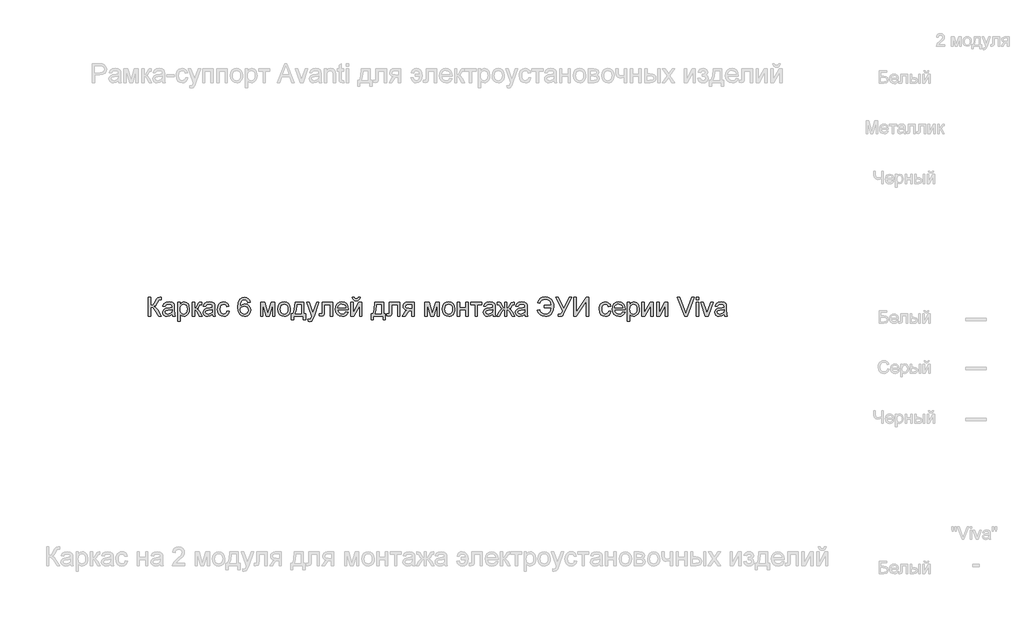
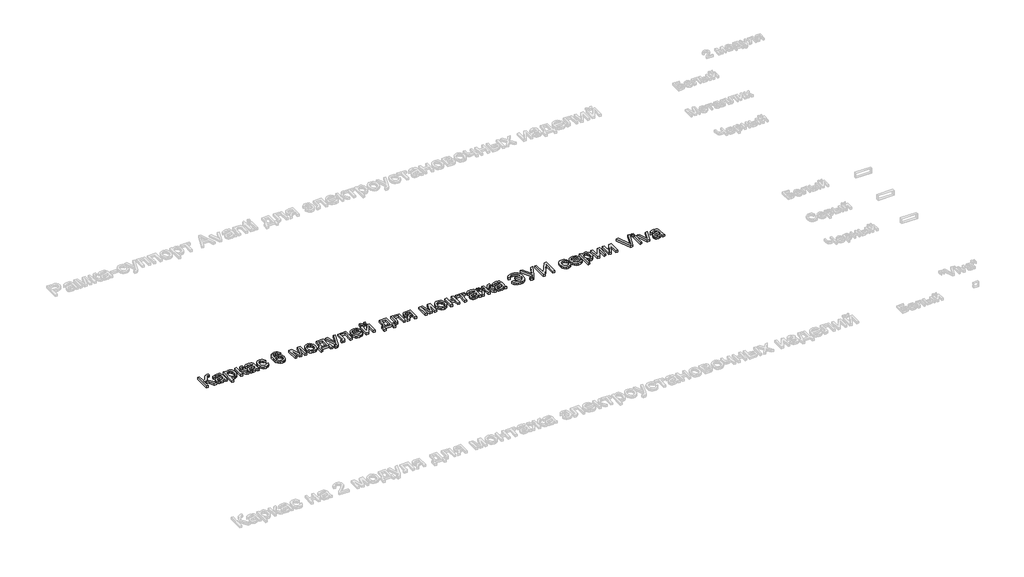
# One storey, part 22 of 48: 1 proxy.
"""IFC4 building model written with IfcOpenShell, lengths in millimetres."""

from ifc_helpers import new_model, si_unit, origin, origin_with_axes, place, context, project, spatial, polyline, outline, extrude, element, save

model = new_model("IFC4")

# Units and contexts
model_context = context("Model", 3, world=origin())
ifc_project = project(units=[si_unit("LENGTHUNIT", "METRE", prefix="MILLI")], contexts=[model_context])

# Site, building, storey
site = spatial("IfcSite", under=ifc_project)
building = spatial("IfcBuilding", under=site)
storey = spatial("IfcBuildingStorey", under=building, Name="Этаж 01", Elevation=0.0)

# Proxy
placement = place(None, origin())
element("IfcBuildingElementProxy", 1, Name="150 мм Arial", ObjectType="150 мм Arial", at=placement, inside=storey, context=model_context, shape_type="SweptSolid", body=[
    extrude(outline(polyline([(70684.1471502, -3434.4299849), (70702.9827083, -3434.4299849), (70702.9827083, -3500.3544384), (70715.734418, -3499.1082382), (70724.0439526, -3495.3696374), (70738.7408383, -3470.1513266), (70749.1335046, -3449.0900824), (70760.9057285, -3438.6606279), (70777.7363298, -3434.4299849), (70790.0971648, -3434.6507141), (70790.0971648, -3453.4862723), (70785.9400983, -3453.3759077), (70781.7830317, -3453.2655431), (70767.0677519, -3457.7904916), (70755.8841392, -3477.1778727), (70742.5484169, -3500.7958968), (70729.5437884, -3508.5949951), (70744.0843243, -3517.1114633), (70758.422525, -3534.8617696), (70790.0971648, -3585.1144501), (70768.2449743, -3585.1144501), (70741.463165, -3542.6608679), (70722.6092128, -3520.4959777), (70713.9042051, -3515.9848247), (70702.9827083, -3514.4811071), (70702.9827083, -3585.1144501), (70684.1471502, -3585.1144501), (70684.1471502, -3434.4299849)])), origin_with_axes(), (0.0, 0.0, 1.0), 20.0),
    extrude(outline(polyline([(70874.8571765, -3570.9877815), (70856.5918354, -3583.7532868), (70836.413508, -3587.4688949), (70820.6727571, -3585.2340118), (70809.0614817, -3578.5293624), (70801.9015783, -3568.3482282), (70799.5149439, -3555.6838905), (70803.1201874, -3540.7846697), (70812.5931488, -3529.9689391), (70825.7817183, -3523.7885215), (70842.0788907, -3520.9558302), (70874.7468119, -3514.4811071), (70874.8571765, -3510.2872523), (70873.5603925, -3501.8811487), (70869.6700404, -3496.3813129), (70860.9696312, -3492.2978228), (70848.8479194, -3490.9366594), (70829.7916321, -3494.560297), (70820.7049468, -3507.4177728), (70801.8693886, -3505.063328), (70810.0179748, -3486.6692282), (70826.4255118, -3475.8902858), (70851.2759406, -3472.1011012), (70874.1030184, -3475.4488274), (70886.9972823, -3483.854931), (70892.7730297, -3496.6388303), (70893.6927346, -3513.1199437), (70893.6927346, -3536.5540268), (70894.6492278, -3569.2771302), (70898.4016242, -3585.1144501), (70879.566066, -3585.1144501), (70874.8571765, -3570.9877815)]), holes=[polyline([(70874.8571765, -3533.3166652), (70844.4701237, -3539.0924125), (70828.2649218, -3542.1458331), (70820.925676, -3547.11224), (70818.350502, -3554.3595153), (70823.9607025, -3564.5498466), (70840.4234217, -3568.6333367), (70859.4797091, -3564.1267823), (70871.7669677, -3553.2190812), (70874.7468119, -3538.6509541), (70874.8571765, -3533.3166652)])]), origin_with_axes(), (0.0, 0.0, 1.0), 20.0),
    extrude(outline(polyline([(70919.5916271, -3627.494456), (70919.5916271, -3474.455546), (70938.4271853, -3474.455546), (70938.4271853, -3492.9232221), (70951.4502079, -3477.3066314), (70969.0349673, -3472.1011012), (70981.7728813, -3473.9221171), (70992.9105087, -3479.3851647), (71001.9787999, -3488.1591503), (71008.5087053, -3499.9129801), (71013.7694179, -3528.9388695), (71012.2840943, -3545.0475023), (71007.8281236, -3559.454681), (71000.5440601, -3571.4292399), (70990.5744581, -3580.2400137), (70978.9631826, -3585.6616746), (70966.7540989, -3587.4688949), (70950.364956, -3582.6312467), (70938.4271853, -3570.3991703), (70938.4271853, -3627.494456), (70919.5916271, -3627.494456)]), holes=[polyline([(70938.4271853, -3530.6679148), (70940.4643318, -3547.5536984), (70946.5757714, -3559.3627105), (70955.5934789, -3566.3156802), (70966.3494287, -3568.6333367), (70977.2801225, -3566.2329067), (70986.5277561, -3559.0316167), (70992.8323338, -3546.7903433), (70994.9338597, -3529.2699633), (70992.8829176, -3512.4761502), (70986.7300912, -3500.5015912), (70977.7261794, -3493.3278923), (70967.1219809, -3490.9366594), (70956.4763956, -3493.4796437), (70947.1275944, -3501.1085965), (70940.6022876, -3513.5843947), (70938.4271853, -3530.6679148)])]), origin_with_axes(), (0.0, 0.0, 1.0), 20.0),
    extrude(outline(polyline([(71034.9594208, -3474.455546), (71053.7949789, -3474.455546), (71053.7949789, -3521.5444414), (71066.4133314, -3518.159927), (71076.7508154, -3498.4414521), (71085.34086, -3481.4269098), (71092.9192291, -3475.8902858), (71106.6964099, -3474.455546), (71110.3016534, -3474.455546), (71110.3016534, -3493.4014687), (71105.2248819, -3493.2911041), (71096.027832, -3495.2776669), (71089.5531089, -3507.6752901), (71081.9563457, -3521.0845889), (71071.3061619, -3527.6512825), (71083.1887504, -3534.9813312), (71094.8506096, -3550.423178), (71115.0105429, -3585.1144501), (71093.5998108, -3585.1144501), (71073.8445477, -3551.158942), (71063.9117338, -3536.7931501), (71053.7949789, -3533.3166652), (71053.7949789, -3585.1144501), (71034.9594208, -3585.1144501), (71034.9594208, -3474.455546)])), origin_with_axes(), (0.0, 0.0, 1.0), 20.0),
    extrude(outline(polyline([(71197.4161099, -3570.9877815), (71179.1507688, -3583.7532868), (71158.9724414, -3587.4688949), (71143.2316905, -3585.2340118), (71131.620415, -3578.5293624), (71124.4605117, -3568.3482282), (71122.0738772, -3555.6838905), (71125.6791208, -3540.7846697), (71135.1520822, -3529.9689391), (71148.3406517, -3523.7885215), (71164.6378241, -3520.9558302), (71197.3057453, -3514.4811071), (71197.4161099, -3510.2872523), (71196.1193258, -3501.8811487), (71192.2289737, -3496.3813129), (71183.5285645, -3492.2978228), (71171.4068528, -3490.9366594), (71152.3505655, -3494.560297), (71143.2638802, -3507.4177728), (71124.428322, -3505.063328), (71132.5769082, -3486.6692282), (71148.9844452, -3475.8902858), (71173.834874, -3472.1011012), (71196.6619518, -3475.4488274), (71209.5562157, -3483.854931), (71215.331963, -3496.6388303), (71216.251668, -3513.1199437), (71216.251668, -3536.5540268), (71217.2081612, -3569.2771302), (71220.9605576, -3585.1144501), (71202.1249994, -3585.1144501), (71197.4161099, -3570.9877815)]), holes=[polyline([(71197.4161099, -3533.3166652), (71167.0290571, -3539.0924125), (71150.8238552, -3542.1458331), (71143.4846094, -3547.11224), (71140.9094354, -3554.3595153), (71146.5196358, -3564.5498466), (71162.9823551, -3568.6333367), (71182.0386425, -3564.1267823), (71194.3259011, -3553.2190812), (71197.3057453, -3538.6509541), (71197.4161099, -3533.3166652)])]), origin_with_axes(), (0.0, 0.0, 1.0), 20.0),
    extrude(outline(polyline([(71312.7839035, -3545.0888891), (71331.6194617, -3547.4433338), (71326.3679462, -3564.1957602), (71316.4995117, -3576.8554993), (71302.9430602, -3584.815546), (71286.6274937, -3587.4688949), (71266.5917205, -3583.7670823), (71250.9245461, -3572.6616446), (71240.8123897, -3554.6400254), (71237.4416709, -3530.1896683), (71238.8810092, -3513.4280448), (71243.1990242, -3498.9013046), (71250.4646936, -3487.1704674), (71260.7469953, -3478.7965535), (71273.0480495, -3473.7749643), (71286.3699763, -3472.1011012), (71302.2854711, -3474.4003637), (71315.0095896, -3481.2981511), (71324.1376616, -3492.4265814), (71329.2650169, -3507.4177728), (71310.4294588, -3509.7722175), (71301.6922614, -3495.663943), (71286.5171291, -3490.9366594), (71274.3448336, -3493.263513), (71264.6833327, -3500.2440738), (71258.378755, -3512.255421), (71256.2772291, -3529.6746335), (71258.3327697, -3547.3283707), (71264.4993917, -3559.3811046), (71273.9861486, -3566.3202787), (71286.0020943, -3568.6333367), (71295.7555657, -3567.1893999), (71303.7524006, -3562.8575894), (71309.5695346, -3555.5275407), (71312.7839035, -3545.0888891)])), origin_with_axes(), (0.0, 0.0, 1.0), 20.0),
    extrude(outline(polyline([(71498.7850403, -3474.455546), (71479.9494822, -3476.8099908), (71472.8125715, -3461.1014296), (71464.2685121, -3455.2245147), (71453.9402251, -3453.2655431), (71436.9440769, -3457.8272798), (71424.0866012, -3474.9521867), (71420.1824535, -3488.9822863), (71418.7339182, -3508.5214187), (71435.3437902, -3493.4934392), (71455.9267879, -3488.5822146), (71473.3276062, -3491.9391378), (71487.9325215, -3502.0099074), (71497.8377442, -3517.3965719), (71501.1394851, -3536.7011796), (71499.5851836, -3550.1886532), (71494.9222794, -3562.6920425), (71487.5370483, -3573.296241), (71477.8157666, -3581.0861423), (71466.1998926, -3585.8732067), (71453.1308847, -3587.4688949), (71431.7615393, -3583.238252), (71414.7423985, -3570.5463231), (71403.6093696, -3548.1423096), (71399.89836, -3514.7754127), (71404.0186384, -3477.2606462), (71416.3794734, -3451.6100741), (71433.2560599, -3438.7250072), (71455.1174475, -3434.4299849), (71471.6445461, -3437.0879323), (71484.8791009, -3445.0617746), (71494.1497272, -3457.7261123), (71498.7850403, -3474.455546)]), holes=[polyline([(71418.7339182, -3536.406874), (71423.0933198, -3552.7224405), (71434.6816027, -3564.5682407), (71451.6593567, -3568.6333367), (71464.0891696, -3566.5272123), (71473.8610351, -3560.2088391), (71480.193204, -3550.2760252), (71482.3039269, -3537.326579), (71480.2207951, -3524.896766), (71473.9713997, -3515.4192061), (71464.0339873, -3509.4181311), (71450.8868045, -3507.4177728), (71438.4753857, -3509.4181311), (71428.0965149, -3515.4192061), (71421.0745674, -3524.6668398), (71418.7339182, -3536.406874)])]), origin_with_axes(), (0.0, 0.0, 1.0), 20.0),
    extrude(outline(polyline([(71581.1906072, -3474.455546), (71613.601011, -3474.455546), (71638.5801985, -3563.0415304), (71665.5091605, -3474.455546), (71696.5584009, -3474.455546), (71696.5584009, -3585.1144501), (71677.7228428, -3585.1144501), (71677.7228428, -3496.0134309), (71650.6467279, -3585.1144501), (71625.9250578, -3585.1144501), (71600.0261654, -3491.7459998), (71600.0261654, -3585.1144501), (71581.1906072, -3585.1144501), (71581.1906072, -3474.455546)])), origin_with_axes(), (0.0, 0.0, 1.0), 20.0),
    extrude(outline(polyline([(71720.1028486, -3529.7849981), (71724.1771417, -3503.1043564), (71736.400021, -3484.3515717), (71751.5015769, -3475.1637188), (71769.582977, -3472.1011012), (71789.3704298, -3475.8305049), (71805.17556, -3487.0187161), (71815.5360367, -3504.782818), (71818.9895289, -3528.2398937), (71817.4628186, -3547.2685899), (71812.8826878, -3561.7539434), (71805.3824936, -3572.6018638), (71795.0955933, -3580.7182603), (71782.8773126, -3585.7812362), (71769.582977, -3587.4688949), (71749.5564008, -3583.7532868), (71733.7696647, -3572.6064623), (71723.5195526, -3554.4698799), (71720.1028486, -3529.7849981)]), holes=[polyline([(71738.9384068, -3529.7482099), (71741.1181076, -3546.7949418), (71747.65721, -3558.9396462), (71757.4980534, -3566.2099141), (71769.582977, -3568.6333367), (71781.6127182, -3566.1961185), (71791.4351675, -3558.8844639), (71797.9742699, -3546.5788111), (71800.1539708, -3529.1595987), (71797.9604744, -3512.6095074), (71791.3799852, -3500.6303499), (71781.5437403, -3493.360082), (71769.582977, -3490.9366594), (71757.4980534, -3493.350885), (71747.65721, -3500.5935617), (71741.1181076, -3512.710675), (71738.9384068, -3529.7482099)])]), origin_with_axes(), (0.0, 0.0, 1.0), 20.0),
    extrude(outline(polyline([(71856.6606452, -3474.455546), (71927.2939883, -3474.455546), (71927.2939883, -3566.278892), (71941.4206569, -3566.278892), (71941.4206569, -3615.7222321), (71922.5850988, -3615.7222321), (71922.5850988, -3585.1144501), (71844.8884214, -3585.1144501), (71844.8884214, -3615.7222321), (71826.0528632, -3615.7222321), (71826.0528632, -3566.278892), (71837.8250871, -3566.278892), (71846.382942, -3550.8140526), (71852.37482, -3530.3552152), (71856.6606452, -3474.455546)]), holes=[polyline([(71873.1417586, -3493.2911041), (71868.7271747, -3536.2045389), (71859.01509, -3566.278892), (71908.4584301, -3566.278892), (71908.4584301, -3493.2911041), (71873.1417586, -3493.2911041)])]), origin_with_axes(), (0.0, 0.0, 1.0), 20.0),
    extrude(outline(polyline([(71962.6106598, -3627.494456), (71960.2562151, -3609.3578736), (71969.8211469, -3611.0133426), (71978.7606794, -3608.9348093), (71984.2421211, -3603.1406679), (71989.3924691, -3589.2715167), (71990.8639971, -3584.7097799), (71950.838436, -3474.455546), (71970.7040637, -3474.455546), (71991.9308548, -3535.8918392), (71999.3252829, -3560.4663565), (72006.7197111, -3538.7613187), (72028.5351134, -3474.455546), (72048.2535883, -3474.455546), (72009.7363434, -3587.7632005), (71999.7299531, -3612.3377178), (71988.8038579, -3625.6182578), (71974.1253663, -3629.8489007), (71962.6106598, -3627.494456)])), origin_with_axes(), (0.0, 0.0, 1.0), 20.0),
    extrude(outline(polyline([(72073.269564, -3474.455546), (72158.0295757, -3474.455546), (72158.0295757, -3585.0040855), (72139.1940175, -3585.0040855), (72139.1940175, -3493.2911041), (72092.1051221, -3493.2911041), (72092.1051221, -3546.0821704), (72090.8359292, -3570.4359585), (72083.8645654, -3580.7182603), (72067.3834521, -3585.1144501), (72052.0795611, -3584.1579569), (72052.0795611, -3566.278892), (72060.5040587, -3566.278892), (72069.0205269, -3565.1200637), (72072.4234354, -3561.4412437), (72073.269564, -3545.0153127), (72073.269564, -3474.455546)])), origin_with_axes(), (0.0, 0.0, 1.0), 20.0),
    extrude(outline(polyline([(72263.7588611, -3552.1522234), (72282.2265372, -3554.5066681), (72275.5724717, -3568.4218046), (72264.9544776, -3578.823668), (72250.6116783, -3585.3075882), (72232.7831971, -3587.4688949), (72210.6826862, -3583.7394912), (72193.677341, -3572.55128), (72182.8340192, -3554.6308283), (72179.2195786, -3530.704703), (72182.8708074, -3505.9738359), (72193.8244938, -3487.4785686), (72210.5999128, -3475.9454681), (72231.7163393, -3472.1011012), (72252.1751768, -3475.936271), (72268.5229329, -3487.4417804), (72279.2420946, -3505.9002595), (72282.8151484, -3530.5943384), (72282.7047838, -3535.67111), (72198.0551367, -3535.67111), (72201.3154909, -3549.7701874), (72208.8892615, -3560.1352627), (72219.8199553, -3566.5088182), (72233.1510791, -3568.6333367), (72251.6187552, -3564.6969994), (72263.7588611, -3552.1522234)]), holes=[polyline([(72198.0551367, -3516.8355518), (72263.9795903, -3516.8355518), (72261.4320075, -3506.8843439), (72256.4380094, -3499.7658273), (72245.4567318, -3493.1439513), (72231.6427629, -3490.9366594), (72218.9462355, -3492.6978944), (72208.4478031, -3497.9815996), (72201.149944, -3506.2175577), (72198.0551367, -3516.8355518)])]), origin_with_axes(), (0.0, 0.0, 1.0), 20.0),
    extrude(outline(polyline([(72301.6507066, -3474.455546), (72320.4862647, -3474.455546), (72320.4862647, -3558.8476757), (72366.7658197, -3474.455546), (72391.1196078, -3474.455546), (72391.1196078, -3585.1144501), (72372.2840497, -3585.1144501), (72372.2840497, -3501.2373552), (72326.2988003, -3585.1144501), (72301.6507066, -3585.1144501), (72301.6507066, -3474.455546)])), origin_with_axes(), (0.0, 0.0, 1.0), 20.0),
    extrude(outline(polyline([(72362.8662706, -3434.4299849), (72376.9929392, -3434.4299849), (72373.9533142, -3446.4919158), (72367.8510716, -3455.3808645), (72358.9621229, -3460.8577077), (72347.5623796, -3462.6833221), (72335.1923475, -3460.8715033), (72325.5998245, -3455.4360468), (72319.0423279, -3446.5608937), (72315.7773752, -3434.4299849), (72329.9040438, -3434.4299849), (72335.2015445, -3445.0433805), (72345.8701224, -3448.5566535), (72357.5687699, -3445.1537451), (72362.8662706, -3434.4299849)])), origin_with_axes(), (0.0, 0.0, 1.0), 20.0),
    extrude(outline(polyline([(72494.7151777, -3474.455546), (72565.3485207, -3474.455546), (72565.3485207, -3566.278892), (72579.4751893, -3566.278892), (72579.4751893, -3615.7222321), (72560.6396312, -3615.7222321), (72560.6396312, -3585.1144501), (72482.9429538, -3585.1144501), (72482.9429538, -3615.7222321), (72464.1073957, -3615.7222321), (72464.1073957, -3566.278892), (72475.8796195, -3566.278892), (72484.4374744, -3550.8140526), (72490.4293524, -3530.3552152), (72494.7151777, -3474.455546)]), holes=[polyline([(72511.196291, -3493.2911041), (72506.7817071, -3536.2045389), (72497.0696224, -3566.278892), (72546.5129626, -3566.278892), (72546.5129626, -3493.2911041), (72511.196291, -3493.2911041)])]), origin_with_axes(), (0.0, 0.0, 1.0), 20.0),
    extrude(outline(polyline([(72610.0829713, -3474.455546), (72694.842983, -3474.455546), (72694.842983, -3585.0040855), (72676.0074249, -3585.0040855), (72676.0074249, -3493.2911041), (72628.9185295, -3493.2911041), (72628.9185295, -3546.0821704), (72627.6493366, -3570.4359585), (72620.6779728, -3580.7182603), (72604.1968594, -3585.1144501), (72588.8929684, -3584.1579569), (72588.8929684, -3566.278892), (72597.3174661, -3566.278892), (72605.8339343, -3565.1200637), (72609.2368428, -3561.4412437), (72610.0829713, -3545.0153127), (72610.0829713, -3474.455546)])), origin_with_axes(), (0.0, 0.0, 1.0), 20.0),
    extrude(outline(polyline([(72807.8563319, -3474.455546), (72807.8563319, -3585.1144501), (72789.0207738, -3585.1144501), (72789.0207738, -3542.7344443), (72778.7568661, -3542.7344443), (72764.7773503, -3545.1256773), (72751.6439631, -3561.2021204), (72736.6343777, -3585.1144501), (72714.8557636, -3585.1144501), (72733.7648981, -3554.8745501), (72742.1158194, -3544.0220313), (72749.8045531, -3539.2027771), (72736.9286833, -3535.2572427), (72727.8787862, -3527.7616471), (72722.5261032, -3517.792045), (72720.7418755, -3506.4244914), (72723.1790937, -3493.5302274), (72730.4907484, -3483.3215021), (72742.4193221, -3476.672035), (72758.7072974, -3474.455546), (72807.8563319, -3474.455546)]), holes=[polyline([(72789.0207738, -3493.2911041), (72764.1887391, -3493.2911041), (72751.3634531, -3494.3809545), (72744.0839881, -3497.6505058), (72739.5774336, -3507.8592311), (72741.2375011, -3515.0375286), (72746.2177037, -3520.0177311), (72769.7437572, -3523.8988861), (72789.0207738, -3523.8988861), (72789.0207738, -3493.2911041)])]), origin_with_axes(), (0.0, 0.0, 1.0), 20.0),
    extrude(outline(polyline([(72894.9707884, -3474.455546), (72927.3811922, -3474.455546), (72952.3603797, -3563.0415304), (72979.2893417, -3474.455546), (73010.3385821, -3474.455546), (73010.3385821, -3585.1144501), (72991.5030239, -3585.1144501), (72991.5030239, -3496.0134309), (72964.4269091, -3585.1144501), (72939.705239, -3585.1144501), (72913.8063466, -3491.7459998), (72913.8063466, -3585.1144501), (72894.9707884, -3585.1144501), (72894.9707884, -3474.455546)])), origin_with_axes(), (0.0, 0.0, 1.0), 20.0),
    extrude(outline(polyline([(73033.8830298, -3529.7849981), (73037.9573229, -3503.1043564), (73050.1802022, -3484.3515717), (73065.2817581, -3475.1637188), (73083.3631581, -3472.1011012), (73103.150611, -3475.8305049), (73118.9557412, -3487.0187161), (73129.3162179, -3504.782818), (73132.7697101, -3528.2398937), (73131.2429998, -3547.2685899), (73126.662869, -3561.7539434), (73119.1626748, -3572.6018638), (73108.8757745, -3580.7182603), (73096.6574937, -3585.7812362), (73083.3631581, -3587.4688949), (73063.336582, -3583.7532868), (73047.5498459, -3572.6064623), (73037.2997338, -3554.4698799), (73033.8830298, -3529.7849981)]), holes=[polyline([(73052.7185879, -3529.7482099), (73054.8982888, -3546.7949418), (73061.4373912, -3558.9396462), (73071.2782346, -3566.2099141), (73083.3631581, -3568.6333367), (73095.3928994, -3566.1961185), (73105.2153486, -3558.8844639), (73111.7544511, -3546.5788111), (73113.9341519, -3529.1595987), (73111.7406555, -3512.6095074), (73105.1601663, -3500.6303499), (73095.3239215, -3493.360082), (73083.3631581, -3490.9366594), (73071.2782346, -3493.350885), (73061.4373912, -3500.5935617), (73054.8982888, -3512.710675), (73052.7185879, -3529.7482099)])]), origin_with_axes(), (0.0, 0.0, 1.0), 20.0),
    extrude(outline(polyline([(73153.959713, -3474.455546), (73172.7952712, -3474.455546), (73172.7952712, -3516.8355518), (73222.2386113, -3516.8355518), (73222.2386113, -3474.455546), (73241.0741695, -3474.455546), (73241.0741695, -3585.1144501), (73222.2386113, -3585.1144501), (73222.2386113, -3535.67111), (73172.7952712, -3535.67111), (73172.7952712, -3585.1144501), (73153.959713, -3585.1144501), (73153.959713, -3474.455546)])), origin_with_axes(), (0.0, 0.0, 1.0), 20.0),
    extrude(outline(polyline([(73259.9097276, -3474.455546), (73349.3786288, -3474.455546), (73349.3786288, -3493.2911041), (73314.0619573, -3493.2911041), (73314.0619573, -3585.1144501), (73295.2263992, -3585.1144501), (73295.2263992, -3493.2911041), (73259.9097276, -3493.2911041), (73259.9097276, -3474.455546)])), origin_with_axes(), (0.0, 0.0, 1.0), 20.0),
    extrude(outline(polyline([(73436.4930853, -3570.9877815), (73418.2277442, -3583.7532868), (73398.0494168, -3587.4688949), (73382.3086659, -3585.2340118), (73370.6973905, -3578.5293624), (73363.5374871, -3568.3482282), (73361.1508527, -3555.6838905), (73364.7560962, -3540.7846697), (73374.2290576, -3529.9689391), (73387.4176271, -3523.7885215), (73403.7147995, -3520.9558302), (73436.3827207, -3514.4811071), (73436.4930853, -3510.2872523), (73435.1963013, -3501.8811487), (73431.3059492, -3496.3813129), (73422.60554, -3492.2978228), (73410.4838282, -3490.9366594), (73391.4275409, -3494.560297), (73382.3408556, -3507.4177728), (73363.5052975, -3505.063328), (73371.6538837, -3486.6692282), (73388.0614206, -3475.8902858), (73412.9118494, -3472.1011012), (73435.7389272, -3475.4488274), (73448.6331911, -3483.854931), (73454.4089385, -3496.6388303), (73455.3286435, -3513.1199437), (73455.3286435, -3536.5540268), (73456.2851366, -3569.2771302), (73460.037533, -3585.1144501), (73441.2019748, -3585.1144501), (73436.4930853, -3570.9877815)]), holes=[polyline([(73436.4930853, -3533.3166652), (73406.1060325, -3539.0924125), (73389.9008306, -3542.1458331), (73382.5615848, -3547.11224), (73379.9864108, -3554.3595153), (73385.5966113, -3564.5498466), (73402.0593306, -3568.6333367), (73421.1156179, -3564.1267823), (73433.4028765, -3553.2190812), (73436.3827207, -3538.6509541), (73436.4930853, -3533.3166652)])]), origin_with_axes(), (0.0, 0.0, 1.0), 20.0),
    extrude(outline(polyline([(73549.5064342, -3474.455546), (73549.5064342, -3521.5444414), (73560.4877118, -3517.6632863), (73570.8803781, -3497.5217471), (73583.2780014, -3478.2079423), (73600.8995489, -3474.455546), (73608.3675535, -3474.455546), (73608.3675535, -3493.4014687), (73603.1804173, -3493.2911041), (73593.4683326, -3495.2408787), (73586.7360921, -3507.454561), (73578.9185997, -3520.8454656), (73567.7533812, -3527.6512825), (73580.068231, -3534.9813312), (73592.0703811, -3550.423178), (73613.076443, -3585.1144501), (73591.4817699, -3585.1144501), (73570.8068017, -3550.9014246), (73560.2669826, -3536.6827855), (73549.5064342, -3533.3166652), (73549.5064342, -3585.1144501), (73530.6708761, -3585.1144501), (73530.6708761, -3533.3166652), (73519.9471159, -3536.6092091), (73509.3337203, -3550.8278482), (73488.6587522, -3585.1144501), (73467.1008673, -3585.1144501), (73488.0333528, -3550.423178), (73500.1274734, -3534.9813312), (73512.4975055, -3527.6512825), (73500.6517053, -3520.1464898), (73490.4981622, -3500.832685), (73485.5317553, -3494.4683265), (73477.4015632, -3493.1807395), (73471.8097568, -3493.2911041), (73471.8097568, -3474.455546), (73474.6424482, -3474.455546), (73491.1603498, -3475.6327684), (73499.7320003, -3480.6359635), (73509.3337203, -3497.5217471), (73519.6160221, -3517.5345276), (73530.6708761, -3521.5444414), (73530.6708761, -3474.455546), (73549.5064342, -3474.455546)])), origin_with_axes(), (0.0, 0.0, 1.0), 20.0),
    extrude(outline(polyline([(73693.1275651, -3570.9877815), (73674.8622241, -3583.7532868), (73654.6838966, -3587.4688949), (73638.9431458, -3585.2340118), (73627.3318703, -3578.5293624), (73620.171967, -3568.3482282), (73617.7853325, -3555.6838905), (73621.3905761, -3540.7846697), (73630.8635375, -3529.9689391), (73644.052107, -3523.7885215), (73660.3492794, -3520.9558302), (73693.0172005, -3514.4811071), (73693.1275651, -3510.2872523), (73691.8307811, -3501.8811487), (73687.940429, -3496.3813129), (73679.2400198, -3492.2978228), (73667.1183081, -3490.9366594), (73648.0620207, -3494.560297), (73638.9753355, -3507.4177728), (73620.1397773, -3505.063328), (73628.2883635, -3486.6692282), (73644.6959005, -3475.8902858), (73669.5463292, -3472.1011012), (73692.3734071, -3475.4488274), (73705.267671, -3483.854931), (73711.0434183, -3496.6388303), (73711.9631233, -3513.1199437), (73711.9631233, -3536.5540268), (73712.9196165, -3569.2771302), (73716.6720128, -3585.1144501), (73697.8364547, -3585.1144501), (73693.1275651, -3570.9877815)]), holes=[polyline([(73693.1275651, -3533.3166652), (73662.7405123, -3539.0924125), (73646.5353105, -3542.1458331), (73639.1960646, -3547.11224), (73636.6208907, -3554.3595153), (73642.2310911, -3564.5498466), (73658.6938104, -3568.6333367), (73677.7500977, -3564.1267823), (73690.0373564, -3553.2190812), (73693.0172005, -3538.6509541), (73693.1275651, -3533.3166652)])]), origin_with_axes(), (0.0, 0.0, 1.0), 20.0),
    extrude(outline(polyline([(73848.5209199, -3497.9999937), (73905.0275944, -3497.9999937), (73900.8797249, -3478.5712258), (73890.9377139, -3463.6214212), (73875.652217, -3454.088679), (73855.4738896, -3450.9110983), (73840.2642684, -3452.8240847), (73828.1494544, -3458.5630438), (73819.1294478, -3468.1279757), (73813.2042484, -3481.5188803), (73794.3686902, -3476.8099908), (73802.4253059, -3458.0664031), (73815.5586931, -3443.9213404), (73833.1342555, -3435.0369902), (73854.5173964, -3432.0755401), (73875.0544088, -3434.7932684), (73892.5196065, -3442.9464531), (73906.3933563, -3455.3256822), (73916.1560247, -3470.7215437), (73921.9363706, -3488.5224338), (73923.8631525, -3508.1167485), (73920.3774706, -3539.0050406), (73907.6395565, -3564.5682407), (73897.8194065, -3574.5872769), (73885.7229867, -3581.7437314), (73871.350297, -3586.037604), (73854.7013374, -3587.4688949), (73832.1593682, -3584.3786861), (73814.1975298, -3575.1080599), (73800.8158222, -3559.6570161), (73792.0142454, -3538.0255548), (73810.8498036, -3533.3166652), (73817.2141621, -3548.767709), (73826.9998232, -3559.8041689), (73840.2067868, -3566.4260448), (73856.835053, -3568.6333367), (73875.6154288, -3565.1660489), (73890.6801966, -3554.7641855), (73900.8705278, -3538.3474515), (73905.0275944, -3516.8355518), (73848.5209199, -3516.8355518), (73848.5209199, -3497.9999937)])), origin_with_axes(), (0.0, 0.0, 1.0), 20.0),
    extrude(outline(polyline([(73939.1670435, -3434.4299849), (73960.0259526, -3434.4299849), (74005.0914971, -3523.6781569), (74045.6320929, -3434.4299849), (74066.307061, -3434.4299849), (74009.1014108, -3551.8211296), (73993.5400024, -3580.663078), (73986.1547713, -3585.7674407), (73976.139184, -3587.4688949), (73959.1798241, -3585.1144501), (73959.1798241, -3568.6333367), (73974.0054685, -3568.6333367), (73985.0051401, -3564.439482), (73995.1954714, -3545.3464065), (73939.1670435, -3434.4299849)])), origin_with_axes(), (0.0, 0.0, 1.0), 20.0),
    extrude(outline(polyline([(74083.9653968, -3434.4299849), (74102.800955, -3434.4299849), (74102.800955, -3553.7709041), (74181.6748547, -3434.4299849), (74201.6876353, -3434.4299849), (74201.6876353, -3585.1144501), (74182.8520771, -3585.1144501), (74182.8520771, -3466.1046247), (74104.1621184, -3585.1144501), (74083.9653968, -3585.1144501), (74083.9653968, -3434.4299849)])), origin_with_axes(), (0.0, 0.0, 1.0), 20.0),
    extrude(outline(polyline([(74361.7898796, -3545.0888891), (74380.6254377, -3547.4433338), (74375.3739222, -3564.1957602), (74365.5054877, -3576.8554993), (74351.9490362, -3584.815546), (74335.6334697, -3587.4688949), (74315.5976966, -3583.7670823), (74299.9305221, -3572.6616446), (74289.8183657, -3554.6400254), (74286.447647, -3530.1896683), (74287.8869853, -3513.4280448), (74292.2050002, -3498.9013046), (74299.4706696, -3487.1704674), (74309.7529714, -3478.7965535), (74322.0540256, -3473.7749643), (74335.3759523, -3472.1011012), (74351.2914471, -3474.4003637), (74364.0155656, -3481.2981511), (74373.1436376, -3492.4265814), (74378.270993, -3507.4177728), (74359.4354348, -3509.7722175), (74350.6982374, -3495.663943), (74335.5231051, -3490.9366594), (74323.3508096, -3493.263513), (74313.6893087, -3500.2440738), (74307.384731, -3512.255421), (74305.2832051, -3529.6746335), (74307.3387458, -3547.3283707), (74313.5053677, -3559.3811046), (74322.9921247, -3566.3202787), (74335.0080703, -3568.6333367), (74344.7615417, -3567.1893999), (74352.7583766, -3562.8575894), (74358.5755106, -3555.5275407), (74361.7898796, -3545.0888891)])), origin_with_axes(), (0.0, 0.0, 1.0), 20.0),
    extrude(outline(polyline([(74474.5824993, -3552.1522234), (74493.0501755, -3554.5066681), (74486.3961099, -3568.4218046), (74475.7781158, -3578.823668), (74461.4353165, -3585.3075882), (74443.6068353, -3587.4688949), (74421.5063244, -3583.7394912), (74404.5009792, -3572.55128), (74393.6576574, -3554.6308283), (74390.0432168, -3530.704703), (74393.6944456, -3505.9738359), (74404.648132, -3487.4785686), (74421.423551, -3475.9454681), (74442.5399775, -3472.1011012), (74462.998815, -3475.936271), (74479.3465711, -3487.4417804), (74490.0657328, -3505.9002595), (74493.6387866, -3530.5943384), (74493.528422, -3535.67111), (74408.878775, -3535.67111), (74412.1391291, -3549.7701874), (74419.7128997, -3560.1352627), (74430.6435935, -3566.5088182), (74443.9747173, -3568.6333367), (74462.4423935, -3564.6969994), (74474.5824993, -3552.1522234)]), holes=[polyline([(74408.878775, -3516.8355518), (74474.8032285, -3516.8355518), (74472.2556457, -3506.8843439), (74467.2616476, -3499.7658273), (74456.28037, -3493.1439513), (74442.4664011, -3490.9366594), (74429.7698738, -3492.6978944), (74419.2714413, -3497.9815996), (74411.9735822, -3506.2175577), (74408.878775, -3516.8355518)])]), origin_with_axes(), (0.0, 0.0, 1.0), 20.0),
    extrude(outline(polyline([(74512.4743448, -3627.494456), (74512.4743448, -3474.455546), (74531.309903, -3474.455546), (74531.309903, -3492.9232221), (74544.3329256, -3477.3066314), (74561.9176849, -3472.1011012), (74574.655599, -3473.9221171), (74585.7932264, -3479.3851647), (74594.8615176, -3488.1591503), (74601.391423, -3499.9129801), (74606.6521356, -3528.9388695), (74605.166812, -3545.0475023), (74600.7108413, -3559.454681), (74593.4267778, -3571.4292399), (74583.4571758, -3580.2400137), (74571.8459003, -3585.6616746), (74559.6368166, -3587.4688949), (74543.2476737, -3582.6312467), (74531.309903, -3570.3991703), (74531.309903, -3627.494456), (74512.4743448, -3627.494456)]), holes=[polyline([(74531.309903, -3530.6679148), (74533.3470495, -3547.5536984), (74539.4584891, -3559.3627105), (74548.4761966, -3566.3156802), (74559.2321464, -3568.6333367), (74570.1628402, -3566.2329067), (74579.4104738, -3559.0316167), (74585.7150515, -3546.7903433), (74587.8165774, -3529.2699633), (74585.7656353, -3512.4761502), (74579.6128089, -3500.5015912), (74570.6088971, -3493.3278923), (74560.0046986, -3490.9366594), (74549.3591133, -3493.4796437), (74540.0103121, -3501.1085965), (74533.4850052, -3513.5843947), (74531.309903, -3530.6679148)])]), origin_with_axes(), (0.0, 0.0, 1.0), 20.0),
    extrude(outline(polyline([(74627.8421385, -3474.455546), (74646.6776966, -3474.455546), (74646.6776966, -3558.8476757), (74692.9572516, -3474.455546), (74717.3110397, -3474.455546), (74717.3110397, -3585.1144501), (74698.4754816, -3585.1144501), (74698.4754816, -3501.2373552), (74652.4902322, -3585.1144501), (74627.8421385, -3585.1144501), (74627.8421385, -3474.455546)])), origin_with_axes(), (0.0, 0.0, 1.0), 20.0),
    extrude(outline(polyline([(74745.5643769, -3474.455546), (74764.3999351, -3474.455546), (74764.3999351, -3558.8476757), (74810.6794901, -3474.455546), (74835.0332782, -3474.455546), (74835.0332782, -3585.1144501), (74816.19772, -3585.1144501), (74816.19772, -3501.2373552), (74770.2124706, -3585.1144501), (74745.5643769, -3585.1144501), (74745.5643769, -3474.455546)])), origin_with_axes(), (0.0, 0.0, 1.0), 20.0),
    extrude(outline(polyline([(74969.0159008, -3585.1144501), (74909.0511356, -3434.4299849), (74929.2110689, -3434.4299849), (74969.3469946, -3542.9919617), (74977.4771867, -3567.4561144), (74985.4970142, -3542.9919617), (75025.7433045, -3434.4299849), (75045.9032378, -3434.4299849), (74988.4768584, -3585.1144501), (74969.0159008, -3585.1144501)])), origin_with_axes(), (0.0, 0.0, 1.0), 20.0),
    extrude(outline(polyline([(75061.059976, -3453.2655431), (75061.059976, -3434.4299849), (75079.8955342, -3434.4299849), (75079.8955342, -3453.2655431), (75061.059976, -3453.2655431)])), origin_with_axes(), (0.0, 0.0, 1.0), 20.0),
    extrude(outline(polyline([(75061.059976, -3585.1144501), (75061.059976, -3474.455546), (75079.8955342, -3474.455546), (75079.8955342, -3585.1144501), (75061.059976, -3585.1144501)])), origin_with_axes(), (0.0, 0.0, 1.0), 20.0),
    extrude(outline(polyline([(75135.2985626, -3585.1144501), (75096.3766475, -3474.455546), (75116.3158517, -3474.455546), (75139.8970876, -3540.7478815), (75146.9972101, -3563.0415304), (75153.9501798, -3541.9986803), (75177.6785685, -3474.455546), (75197.6177726, -3474.455546), (75159.1741041, -3585.1144501), (75135.2985626, -3585.1144501)])), origin_with_axes(), (0.0, 0.0, 1.0), 20.0),
    extrude(outline(polyline([(75284.7322291, -3570.9877815), (75266.466888, -3583.7532868), (75246.2885606, -3587.4688949), (75230.5478097, -3585.2340118), (75218.9365342, -3578.5293624), (75211.7766309, -3568.3482282), (75209.3899965, -3555.6838905), (75212.99524, -3540.7846697), (75222.4682014, -3529.9689391), (75235.6567709, -3523.7885215), (75251.9539433, -3520.9558302), (75284.6218645, -3514.4811071), (75284.7322291, -3510.2872523), (75283.435445, -3501.8811487), (75279.5450929, -3496.3813129), (75270.8446838, -3492.2978228), (75258.722972, -3490.9366594), (75239.6666847, -3494.560297), (75230.5799994, -3507.4177728), (75211.7444412, -3505.063328), (75219.8930274, -3486.6692282), (75236.3005644, -3475.8902858), (75261.1509932, -3472.1011012), (75283.978071, -3475.4488274), (75296.8723349, -3483.854931), (75302.6480822, -3496.6388303), (75303.5677872, -3513.1199437), (75303.5677872, -3536.5540268), (75304.5242804, -3569.2771302), (75308.2766768, -3585.1144501), (75289.4411186, -3585.1144501), (75284.7322291, -3570.9877815)]), holes=[polyline([(75284.7322291, -3533.3166652), (75254.3451763, -3539.0924125), (75238.1399744, -3542.1458331), (75230.8007286, -3547.11224), (75228.2255546, -3554.3595153), (75233.835755, -3564.5498466), (75250.2984743, -3568.6333367), (75269.3547617, -3564.1267823), (75281.6420203, -3553.2190812), (75284.6218645, -3538.6509541), (75284.7322291, -3533.3166652)])]), origin_with_axes(), (0.0, 0.0, 1.0), 20.0),
])

save(model, "model.ifc")
